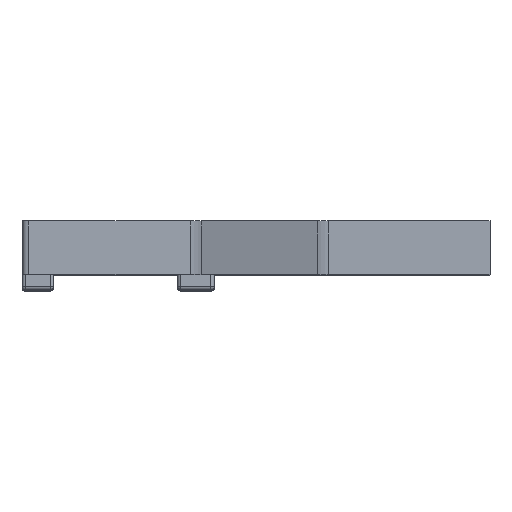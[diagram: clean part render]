
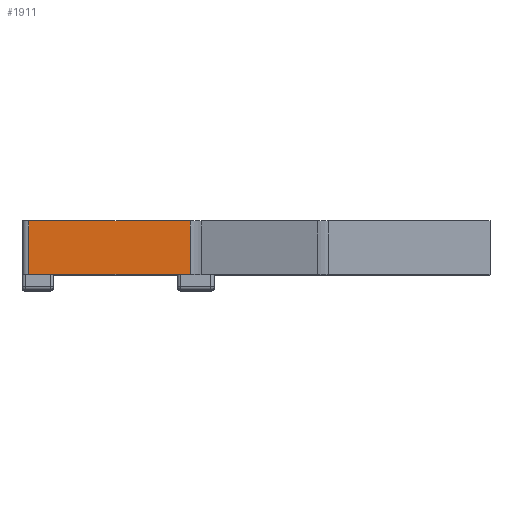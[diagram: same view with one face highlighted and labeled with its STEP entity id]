
A CAD part, top view. The second image highlights one B-rep face of the part: STEP entity #1911.
In plain terms, the highlighted planar face has unit normal (0, 0, 1).
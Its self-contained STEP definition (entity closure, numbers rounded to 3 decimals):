
#218 = CARTESIAN_POINT ( 'NONE',  ( 80.181, -28.131, 111.653 ) ) ;
#560 = VECTOR ( 'NONE', #2662, 1000. ) ;
#764 = ORIENTED_EDGE ( 'NONE', *, *, #3176, .T. ) ;
#854 = LINE ( 'NONE', #1369, #5837 ) ;
#900 = CARTESIAN_POINT ( 'NONE',  ( 80.181, -20.131, 111.653 ) ) ;
#1035 = VERTEX_POINT ( 'NONE', #1869 ) ;
#1047 = FACE_OUTER_BOUND ( 'NONE', #1411, .T. ) ;
#1369 = CARTESIAN_POINT ( 'NONE',  ( 80.181, -20.131, 111.653 ) ) ;
#1410 = LINE ( 'NONE', #5139, #4762 ) ;
#1411 = EDGE_LOOP ( 'NONE', ( #5732, #4536, #764, #1693 ) ) ;
#1487 = CARTESIAN_POINT ( 'NONE',  ( 56.012, -20.131, 111.653 ) ) ;
#1693 = ORIENTED_EDGE ( 'NONE', *, *, #2210, .T. ) ;
#1853 = DIRECTION ( 'NONE',  ( -1., 0., 0. ) ) ;
#1869 = CARTESIAN_POINT ( 'NONE',  ( 56.012, -20.131, 111.653 ) ) ;
#1911 = ADVANCED_FACE ( 'NONE', ( #1047 ), #2599, .T. ) ;
#2099 = CARTESIAN_POINT ( 'NONE',  ( 80.181, -28.131, 111.653 ) ) ;
#2210 = EDGE_CURVE ( 'NONE', #1035, #4004, #3493, .T. ) ;
#2242 = AXIS2_PLACEMENT_3D ( 'NONE', #3566, #5044, #4949 ) ;
#2351 = VERTEX_POINT ( 'NONE', #2099 ) ;
#2480 = DIRECTION ( 'NONE',  ( 0., -1., 0. ) ) ;
#2599 = PLANE ( 'NONE',  #2242 ) ;
#2662 = DIRECTION ( 'NONE',  ( -1., 0., 0. ) ) ;
#3176 = EDGE_CURVE ( 'NONE', #5813, #1035, #854, .T. ) ;
#3371 = LINE ( 'NONE', #218, #560 ) ;
#3493 = LINE ( 'NONE', #1487, #4312 ) ;
#3566 = CARTESIAN_POINT ( 'NONE',  ( 55.012, -28.131, 111.653 ) ) ;
#4004 = VERTEX_POINT ( 'NONE', #5329 ) ;
#4154 = EDGE_CURVE ( 'NONE', #2351, #5813, #1410, .T. ) ;
#4157 = EDGE_CURVE ( 'NONE', #2351, #4004, #3371, .T. ) ;
#4312 = VECTOR ( 'NONE', #2480, 1000. ) ;
#4536 = ORIENTED_EDGE ( 'NONE', *, *, #4154, .T. ) ;
#4660 = DIRECTION ( 'NONE',  ( 0., 1., 0. ) ) ;
#4762 = VECTOR ( 'NONE', #4660, 1000. ) ;
#4949 = DIRECTION ( 'NONE',  ( 1., 0., 0. ) ) ;
#5044 = DIRECTION ( 'NONE',  ( 0., 0., 1. ) ) ;
#5139 = CARTESIAN_POINT ( 'NONE',  ( 80.181, -28.131, 111.653 ) ) ;
#5329 = CARTESIAN_POINT ( 'NONE',  ( 56.012, -28.131, 111.653 ) ) ;
#5732 = ORIENTED_EDGE ( 'NONE', *, *, #4157, .F. ) ;
#5813 = VERTEX_POINT ( 'NONE', #900 ) ;
#5837 = VECTOR ( 'NONE', #1853, 1000. ) ;
